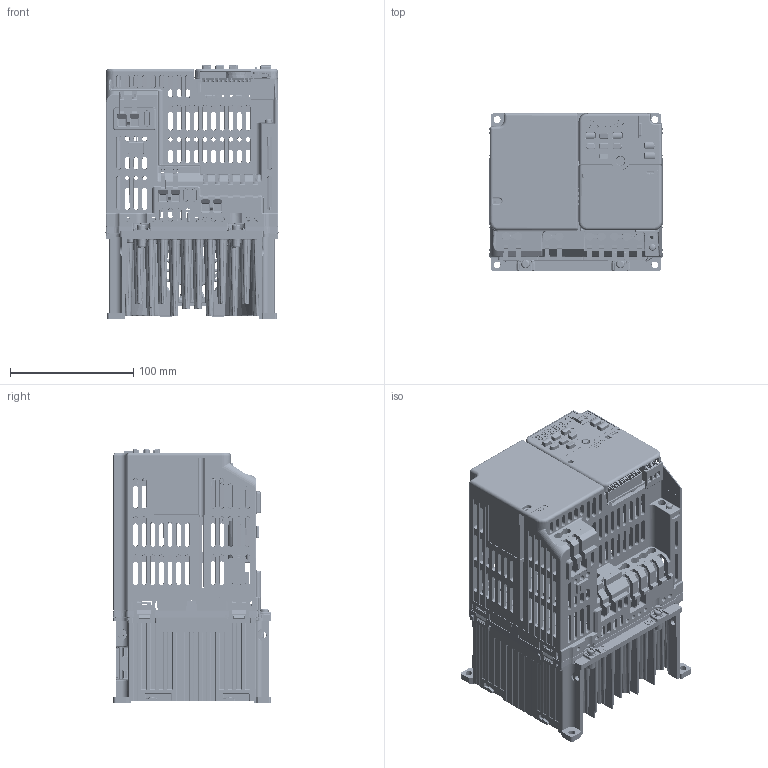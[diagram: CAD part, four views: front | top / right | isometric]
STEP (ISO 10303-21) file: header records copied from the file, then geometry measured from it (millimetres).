
FILE_DESCRIPTION((''),'2;1');
FILE_NAME('GA500_EMC_FRAME_V3-B_ASM','2019-03-11T',('anm'),('YASKAWA ELECTRIC CORCORATION'),'PRO/ENGINEER BY PARAMETRIC TECHNOLOGY CORPORATION, 2015440','PRO/ENGINEER BY PARAMETRIC TECHNOLOGY CORPORATION, 2015440','');
FILE_SCHEMA(('CONFIG_CONTROL_DESIGN'));
Products named in the file (55): LAY_KIPR-GA50_Q_B012_1_1_1_1; 400-107-699_1_1_1_1; PRT0001; 400-107-700_1_1_1_1; PRT0002; PRT0005; 400-104-272-01B-1_6PCB_AF0_1_1_; PRT0006; KTP761833_6PCB_ASM_1_ASM_1_ASM__ASM; 400-104-272-01B-1_5PCB_AF0_1_1_; MKDS10HV_2-ZB-10P16_1_1_1_1; KTP761353_5PCB_ASM_1_ASM_1_ASM__ASM; 400-108-088_ASM_1_ASM_1_ASM_1_1; 400-104-306-01B-1_1_1_1_1; KTX731513_ASM_1_ASM_1_ASM_1_ASM_ASM; 400-107-691_1_1_1_1; PRT0007; 400-107-691_ASM_1_ASM_1_ASM_1_A_ASM; PRT0008; PRT0009; PRT0010; PRT0011; PRT0012; PRT0013; PRT0014; RT-01T-1P0B_LF_AF1_1_1_1_1; PRT0015; PRT0016; PRT0017; PRT0018; ASM0001_ASM; PRT0019; PRT0020; PRT0021; PRT0022; PRT0023; PRT0024; PRT0025; ASM0003_ASM; ASM0002_ASM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
Assembly tree (56 placements, depth 8):
  GA500_EMC_FRAME_V3-B_ASM
    GA500_EMC_FRAME_V3-B_ASM_1_ASM
      GA500_EMC_FRAME_V3-B_ASM_1_ASM__ASM
        Q2V_FRAME_V3-B_ASM_1_ASM_1_ASM__ASM
          00-CIPR-GA50ZB012XXXX_ASM_2_ASM_ASM
            LAY_KIPR-GA50_Q_B012_1_1_1_1
            400-107-699_1_1_1_1
            PRT0001  x2
            400-107-700_1_1_1_1
            PRT0002
            PRT0005
            KTP761833_6PCB_ASM_1_ASM_1_ASM__ASM
              400-104-272-01B-1_6PCB_AF0_1_1_
              PRT0006
            KTP761353_5PCB_ASM_1_ASM_1_ASM__ASM
              400-104-272-01B-1_5PCB_AF0_1_1_
              MKDS10HV_2-ZB-10P16_1_1_1_1
            400-108-088_ASM_1_ASM_1_ASM_1_1
            KTX731513_ASM_1_ASM_1_ASM_1_ASM_ASM
              400-104-306-01B-1_1_1_1_1
              MKDS10HV_2-ZB-10P16_1_1_1_1
            400-107-691_ASM_1_ASM_1_ASM_1_A_ASM
              400-107-691_1_1_1_1
              PRT0007
            PRT0008
            PRT0009
            ASM0001_ASM
              PRT0010
              PRT0011
              PRT0012
              PRT0013
              PRT0014
              RT-01T-1P0B_LF_AF1_1_1_1_1
              PRT0015
              PRT0016
              PRT0017
              PRT0018
            ASM0002_ASM
              PRT0019
              PRT0020
              PRT0021
              PRT0022
              ASM0003_ASM
                PRT0023
                PRT0024
                PRT0025
            PRT0026
            PRT0027
            PRT0028
            PRT0029
            PRT0030
            PRT0031
            PRT0032
            PRT0033
            PRT0034
            PRT0035
Bounding box: 140.58 x 128.29 x 205.75 mm (x, y, z)
Volume: 343306.8 mm3; surface area: 546120.1 mm2
Topology: 40 solids, 49 shells, 17604 faces, 49094 edges, 31574 vertices
Faces by surface type: plane 10644, cylinder 3684, cone 1196, bspline 1088, torus 609, sphere 373, extrusion 10
Entity records: 617211 total; most frequent: CARTESIAN_POINT 180491, ORIENTED_EDGE 96048, DIRECTION 83181, EDGE_CURVE 48045, VECTOR 32747, LINE 32737, VERTEX_POINT 31150, AXIS2_PLACEMENT_3D 25217
